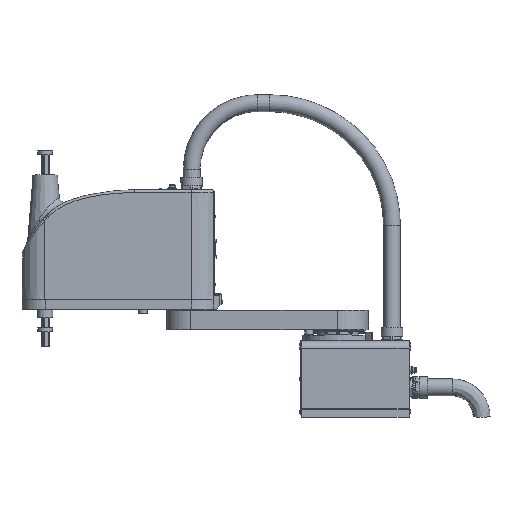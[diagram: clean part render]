
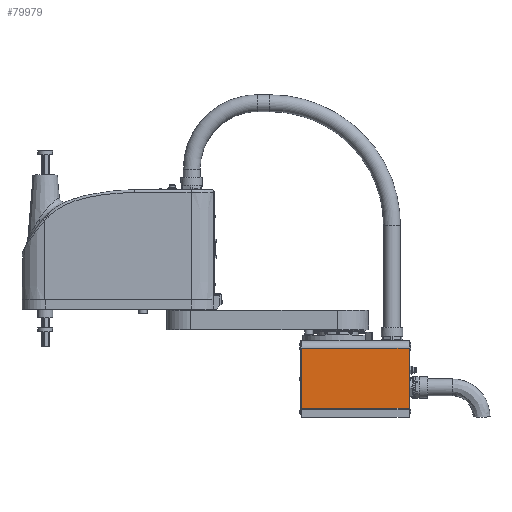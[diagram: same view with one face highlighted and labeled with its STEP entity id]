
A CAD part, top view. The second image highlights one B-rep face of the part: STEP entity #79979.
In plain terms, the highlighted planar face has unit normal (0, 0, -1).
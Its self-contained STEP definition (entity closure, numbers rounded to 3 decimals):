
#2829 = CARTESIAN_POINT ( 'NONE',  ( -75., -126.5, 85. ) ) ;
#5193 = DIRECTION ( 'NONE',  ( 0., 0., -1. ) ) ;
#5253 = LINE ( 'NONE', #27415, #83467 ) ;
#6097 = CARTESIAN_POINT ( 'NONE',  ( 145., -124.5, 85. ) ) ;
#7075 = VECTOR ( 'NONE', #22401, 1000. ) ;
#7767 = EDGE_CURVE ( 'NONE', #12892, #53039, #5253, .T. ) ;
#8965 = ORIENTED_EDGE ( 'NONE', *, *, #86180, .F. ) ;
#10818 = VECTOR ( 'NONE', #70744, 1000. ) ;
#12892 = VERTEX_POINT ( 'NONE', #61872 ) ;
#13685 = CARTESIAN_POINT ( 'NONE',  ( 145., -126.5, 85. ) ) ;
#13922 = LINE ( 'NONE', #13685, #10818 ) ;
#15895 = AXIS2_PLACEMENT_3D ( 'NONE', #73719, #5193, #18765 ) ;
#18765 = DIRECTION ( 'NONE',  ( -1., 0., 0. ) ) ;
#20950 = CARTESIAN_POINT ( 'NONE',  ( -285.609, -124.5, 85. ) ) ;
#22401 = DIRECTION ( 'NONE',  ( 1., 0., 0. ) ) ;
#22639 = DIRECTION ( 'NONE',  ( 0., -1., 0. ) ) ;
#27415 = CARTESIAN_POINT ( 'NONE',  ( 145., -1.5, 85. ) ) ;
#28364 = FACE_OUTER_BOUND ( 'NONE', #52551, .T. ) ;
#34523 = DIRECTION ( 'NONE',  ( 1., 0., 0. ) ) ;
#37956 = ORIENTED_EDGE ( 'NONE', *, *, #7767, .T. ) ;
#38376 = EDGE_CURVE ( 'NONE', #80966, #71224, #53604, .T. ) ;
#40362 = PLANE ( 'NONE',  #15895 ) ;
#46865 = VECTOR ( 'NONE', #22639, 1000. ) ;
#47142 = CARTESIAN_POINT ( 'NONE',  ( -75., -124.5, 85. ) ) ;
#49511 = ORIENTED_EDGE ( 'NONE', *, *, #76984, .T. ) ;
#52551 = EDGE_LOOP ( 'NONE', ( #49511, #83368, #8965, #37956 ) ) ;
#53039 = VERTEX_POINT ( 'NONE', #65583 ) ;
#53604 = LINE ( 'NONE', #20950, #7075 ) ;
#61872 = CARTESIAN_POINT ( 'NONE',  ( -75., -1.5, 85. ) ) ;
#65583 = CARTESIAN_POINT ( 'NONE',  ( 145., -1.5, 85. ) ) ;
#70744 = DIRECTION ( 'NONE',  ( 0., -1., 0. ) ) ;
#71224 = VERTEX_POINT ( 'NONE', #6097 ) ;
#73719 = CARTESIAN_POINT ( 'NONE',  ( 145., 13.5, 85. ) ) ;
#75415 = LINE ( 'NONE', #2829, #46865 ) ;
#76984 = EDGE_CURVE ( 'NONE', #53039, #71224, #13922, .T. ) ;
#79979 = ADVANCED_FACE ( 'NONE', ( #28364 ), #40362, .T. ) ;
#80966 = VERTEX_POINT ( 'NONE', #47142 ) ;
#83368 = ORIENTED_EDGE ( 'NONE', *, *, #38376, .F. ) ;
#83467 = VECTOR ( 'NONE', #34523, 1000. ) ;
#86180 = EDGE_CURVE ( 'NONE', #12892, #80966, #75415, .T. ) ;
